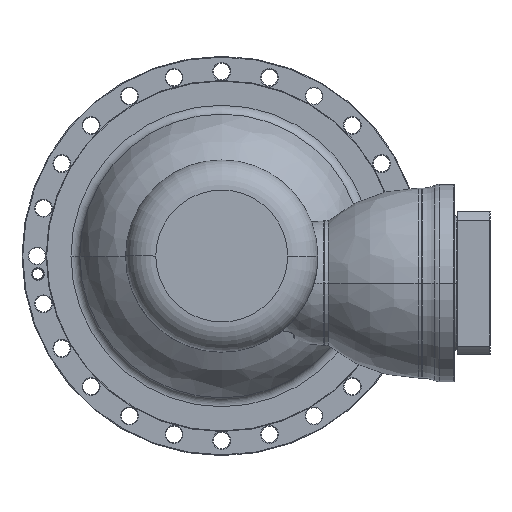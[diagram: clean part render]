
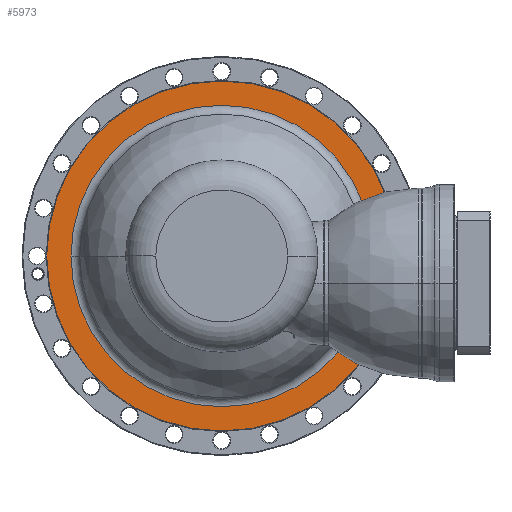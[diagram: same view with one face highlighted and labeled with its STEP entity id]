
A CAD part, left-side view. The second image highlights one B-rep face of the part: STEP entity #5973.
In plain terms, the highlighted planar face has unit normal (-1, 0, 0) as drawn and (1, 0, 0) by its records, which use the part's own axes.
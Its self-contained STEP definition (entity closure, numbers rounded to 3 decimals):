
#5444=CARTESIAN_POINT('',(-137.5,0.,0.));
#5445=DIRECTION('',(-1.,0.,0.));
#5446=DIRECTION('',(0.,-1.,0.));
#5447=AXIS2_PLACEMENT_3D('',#5444,#5445,#5446);
#5449=CARTESIAN_POINT('',(-137.5,0.,0.));
#5450=DIRECTION('',(-1.,0.,0.));
#5451=DIRECTION('',(0.,1.,0.));
#5452=AXIS2_PLACEMENT_3D('',#5449,#5450,#5451);
#5454=CARTESIAN_POINT('',(-137.5,0.,0.));
#5455=DIRECTION('',(1.,0.,0.));
#5456=DIRECTION('',(0.,-1.,0.));
#5457=AXIS2_PLACEMENT_3D('',#5454,#5455,#5456);
#5459=CARTESIAN_POINT('',(-137.5,0.,0.));
#5460=DIRECTION('',(1.,0.,0.));
#5461=DIRECTION('',(0.,1.,0.));
#5462=AXIS2_PLACEMENT_3D('',#5459,#5460,#5461);
#5691=CARTESIAN_POINT('',(-137.5,-232.2,0.));
#5692=CARTESIAN_POINT('',(-137.5,232.2,0.));
#5693=VERTEX_POINT('',#5691);
#5694=VERTEX_POINT('',#5692);
#5739=CARTESIAN_POINT('',(-137.5,-200.055,0.));
#5740=CARTESIAN_POINT('',(-137.5,200.055,0.));
#5741=VERTEX_POINT('',#5739);
#5742=VERTEX_POINT('',#5740);
#5957=CARTESIAN_POINT('',(-137.5,0.,0.));
#5958=DIRECTION('',(1.,0.,0.));
#5959=DIRECTION('',(0.,-1.,0.));
#5960=AXIS2_PLACEMENT_3D('',#5957,#5958,#5959);
#5961=PLANE('',#5960);
#5963=ORIENTED_EDGE('',*,*,#5962,.T.);
#5965=ORIENTED_EDGE('',*,*,#5964,.T.);
#5966=EDGE_LOOP('',(#5963,#5965));
#5967=FACE_OUTER_BOUND('',#5966,.F.);
#5968=ORIENTED_EDGE('',*,*,#5947,.T.);
#5970=ORIENTED_EDGE('',*,*,#5969,.T.);
#5971=EDGE_LOOP('',(#5968,#5970));
#5972=FACE_BOUND('',#5971,.F.);
#5973=ADVANCED_FACE('',(#5967,#5972),#5961,.T.);
#5448=CIRCLE('',#5447,232.2);
#5453=CIRCLE('',#5452,232.2);
#5458=CIRCLE('',#5457,200.055);
#5463=CIRCLE('',#5462,200.055);
#5947=EDGE_CURVE('',#5741,#5742,#5458,.T.);
#5962=EDGE_CURVE('',#5693,#5694,#5448,.T.);
#5964=EDGE_CURVE('',#5694,#5693,#5453,.T.);
#5969=EDGE_CURVE('',#5742,#5741,#5463,.T.);
